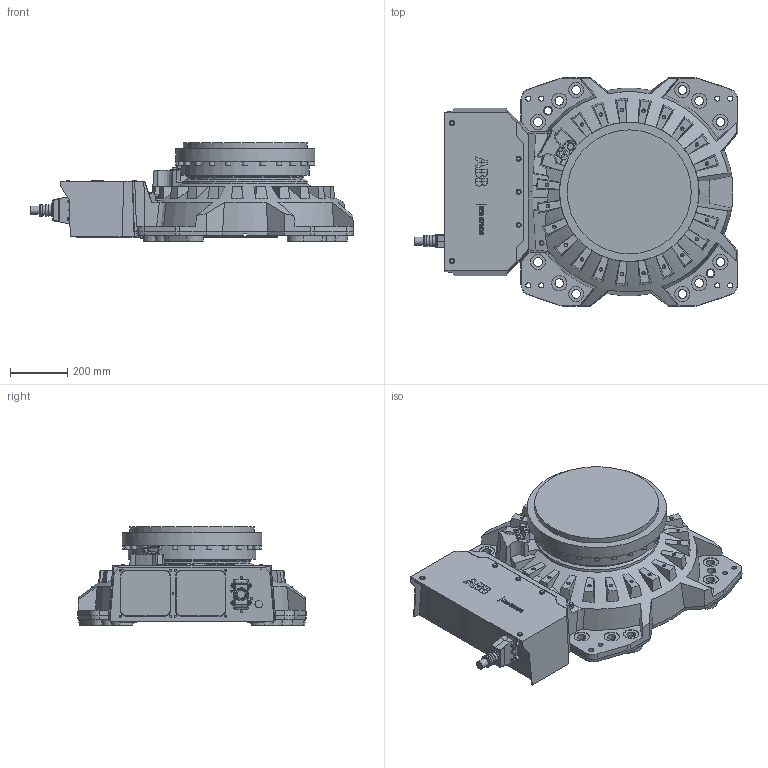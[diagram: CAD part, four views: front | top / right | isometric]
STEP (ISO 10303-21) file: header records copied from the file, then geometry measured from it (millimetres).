
FILE_DESCRIPTION (( 'STEP AP214' ), '1' );
FILE_NAME ('IRB6750S_All_OC_00_BASE_CAD.step', '2026-05-07T13:40:12', ( '' ), ( '' ), 'SwSTEP 2.0', 'SolidWorks 2024', '' );
FILE_SCHEMA (( 'AUTOMOTIVE_DESIGN' ));
Length unit declared in the file: millimetre
Products named in the file (1): IRB6750S_All_OC_00_BASE_CAD
Bounding box: 1124.5 x 795 x 342 mm (x, y, z)
Volume: 115140844.4 mm3; surface area: 2964125 mm2
Topology: 1 solids, 1 shells, 1161 faces, 2892 edges, 1883 vertices
Faces by surface type: plane 678, cylinder 229, cone 185, bspline 61, sphere 4, torus 4
Full cylindrical faces by diameter (mm): 5.2 x4, 5.45 x1, 6 x2, 6.6 x4, 6.8 x8, 10 x4, 10.2 x20, 11.05 x2, 12 x8, 17 x1, 17.5 x8, 17.7 x1, 18.3 x24, 19.7 x2, 20 x1, 23 x1, 25 x1, 28 x1, 30 x14, 36 x3, 40 x4, 45 x5, 53 x12, 404 x1, 406 x1, 431.5 x1, 444 x1, 485 x1
Entity records: 49735 total; most frequent: CARTESIAN_POINT 10973, ORIENTED_EDGE 5198, DIRECTION 5087, EDGE_CURVE 2599, AXIS2_PLACEMENT_3D 1822, VERTEX_POINT 1802, EDGE_LOOP 1567, LINE 1443
